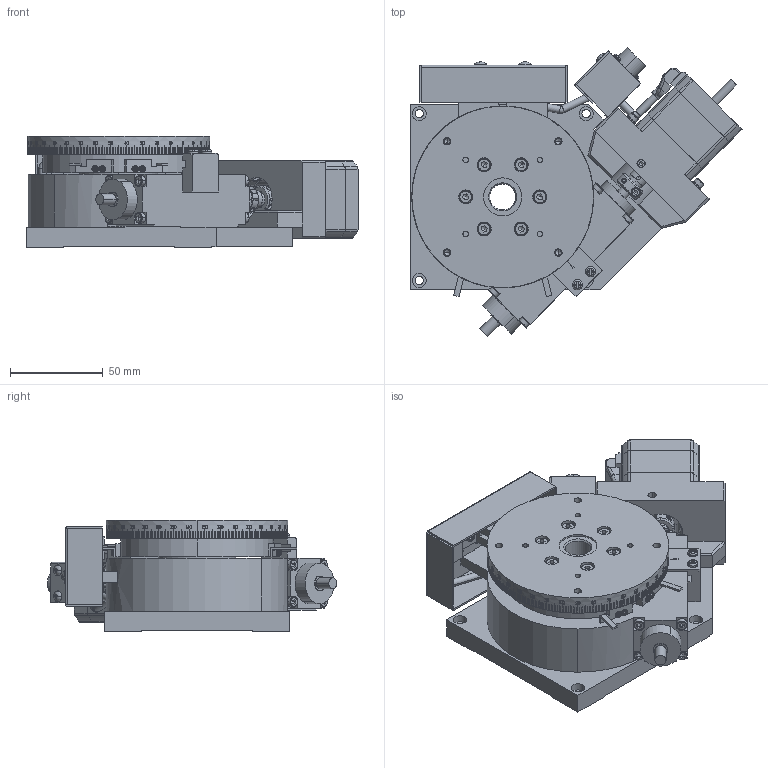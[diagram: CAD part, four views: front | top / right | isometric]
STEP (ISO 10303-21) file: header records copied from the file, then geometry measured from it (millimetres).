
FILE_DESCRIPTION (( 'STEP AP203' ), '1' );
FILE_NAME ('RA10A-W01.STEP', '2019-02-20T05:25:43', ( '' ), ( '' ), 'SwSTEP 2.0', 'SolidWorks 2018', '' );
FILE_SCHEMA (( 'CONFIG_CONTROL_DESIGN' ));
Length unit declared in the file: millimetre
Products named in the file (9): RA10A-W01.sldasm-Part-1; table; table-Part-3; table-Part-2; base; RA10A-W01.sldasm-Part-2; RA10A-W01; table-Part-4; table-Part-1
Assembly tree (7 placements, depth 3):
  RA10A-W01.sldasm-Part-2
  RA10A-W01
    table
      table-Part-1
      table-Part-2
      table-Part-3
      table-Part-4
    RA10A-W01.sldasm-Part-1
    base
Bounding box: 179.05 x 156.02 x 60 mm (x, y, z)
Volume: 641143.4 mm3; surface area: 136702.2 mm2
Topology: 6 solids, 8 shells, 4866 faces, 12898 edges, 8292 vertices
Faces by surface type: plane 3448, cylinder 1032, cone 310, torus 40, sphere 32, bspline 4
Entity records: 151551 total; most frequent: CARTESIAN_POINT 29876, ORIENTED_EDGE 25620, DIRECTION 25410, EDGE_CURVE 12810, AXIS2_PLACEMENT_3D 8804, VERTEX_POINT 8292, LINE 7802, VECTOR 7802
